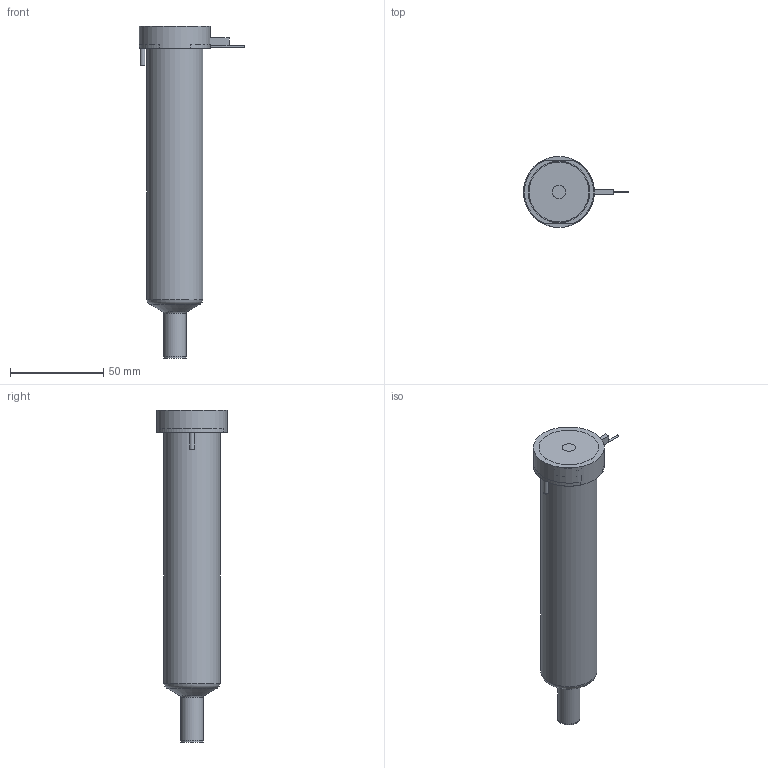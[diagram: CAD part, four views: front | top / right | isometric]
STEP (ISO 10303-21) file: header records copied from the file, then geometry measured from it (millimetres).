
FILE_DESCRIPTION(/* description */ (''),/* implementation_level */ '2;1');
FILE_NAME(/* name */ 'BXYCN16145P4F_250C_a',/* time_stamp */ '2016-02-18T16:21:28+13:00',/* author */ (''),/* organization */ (''),/* preprocessor_version */ 'ST-DEVELOPER v9',/* originating_system */ 'UGS - NX 4.0',/* authorisation */ '');
FILE_SCHEMA (('CONFIG_CONTROL_DESIGN'));
Length unit declared in the file: millimetre
Products named in the file (1): matt5E57pz3n
Bounding box: 56.25 x 38 x 177.77 mm (x, y, z)
Volume: 197455.8 mm3; surface area: 34368.8 mm2
Topology: 2 solids, 2 shells, 67 faces, 149 edges, 97 vertices
Faces by surface type: plane 31, cylinder 22, torus 7, cone 5, bspline 1, sphere 1
Full cylindrical faces by diameter (mm): 1 x2, 2 x1, 2.5 x1, 5 x1, 7 x1, 11.61 x1, 11.995 x2, 14.8 x1, 25.4 x1, 30 x1, 38 x1
Entity records: 1951 total; most frequent: CARTESIAN_POINT 487, DIRECTION 302, ORIENTED_EDGE 234, AXIS2_PLACEMENT_3D 130, EDGE_CURVE 117, EDGE_LOOP 104, VERTEX_POINT 89, ADVANCED_FACE 67
